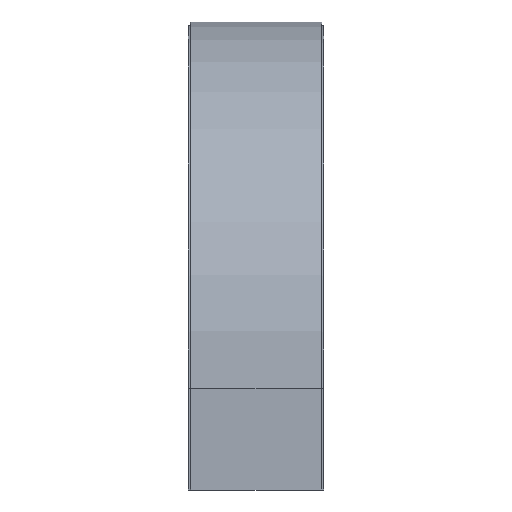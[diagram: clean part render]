
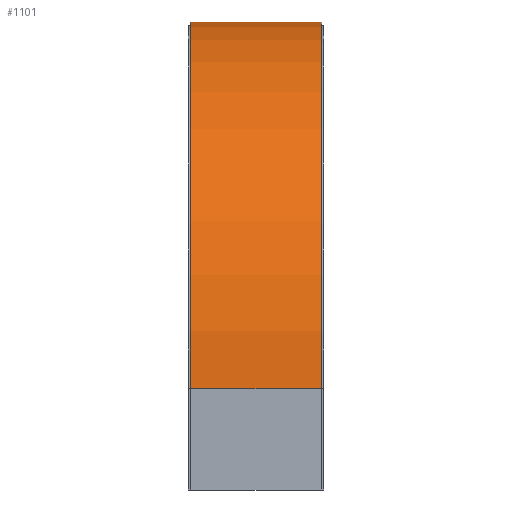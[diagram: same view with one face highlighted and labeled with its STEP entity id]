
A CAD part, front view. The second image highlights one B-rep face of the part: STEP entity #1101.
In plain terms, the highlighted cylindrical face has radius 542 mm (diameter 1084 mm), a partial arc.
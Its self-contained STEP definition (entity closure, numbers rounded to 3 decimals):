
#137 = CARTESIAN_POINT ( 'NONE',  ( -96.65, -42., 150. ) ) ;
#185 = EDGE_CURVE ( 'NONE', #2214, #820, #1968, .T. ) ;
#280 = VERTEX_POINT ( 'NONE', #296 ) ;
#296 = CARTESIAN_POINT ( 'NONE',  ( -96.65, 500., 692. ) ) ;
#316 = DIRECTION ( 'NONE',  ( -1., 0., 0. ) ) ;
#364 = ORIENTED_EDGE ( 'NONE', *, *, #185, .T. ) ;
#414 = CYLINDRICAL_SURFACE ( 'NONE', #1337, 542. ) ;
#481 = VECTOR ( 'NONE', #2566, 1000. ) ;
#535 = CARTESIAN_POINT ( 'NONE',  ( -96.65, 500., 692. ) ) ;
#556 = EDGE_LOOP ( 'NONE', ( #2196, #364, #1739, #2599 ) ) ;
#603 = FACE_OUTER_BOUND ( 'NONE', #556, .T. ) ;
#657 = CARTESIAN_POINT ( 'NONE',  ( 0., 500., 150. ) ) ;
#820 = VERTEX_POINT ( 'NONE', #1492 ) ;
#971 = EDGE_CURVE ( 'NONE', #2214, #1972, #1283, .T. ) ;
#1101 = ADVANCED_FACE ( 'NONE', ( #603 ), #414, .T. ) ;
#1283 = LINE ( 'NONE', #1624, #481 ) ;
#1337 = AXIS2_PLACEMENT_3D ( 'NONE', #657, #2833, #3104 ) ;
#1381 = DIRECTION ( 'NONE',  ( 0., 0., 1. ) ) ;
#1492 = CARTESIAN_POINT ( 'NONE',  ( 96.65, 500., 692. ) ) ;
#1624 = CARTESIAN_POINT ( 'NONE',  ( -96.65, -42., 150. ) ) ;
#1677 = AXIS2_PLACEMENT_3D ( 'NONE', #2360, #1870, #1381 ) ;
#1690 = EDGE_CURVE ( 'NONE', #1972, #280, #2743, .T. ) ;
#1739 = ORIENTED_EDGE ( 'NONE', *, *, #3031, .T. ) ;
#1870 = DIRECTION ( 'NONE',  ( -1., 0., 0. ) ) ;
#1927 = CARTESIAN_POINT ( 'NONE',  ( 96.65, 500., 150. ) ) ;
#1968 = CIRCLE ( 'NONE', #3136, 542. ) ;
#1972 = VERTEX_POINT ( 'NONE', #137 ) ;
#2196 = ORIENTED_EDGE ( 'NONE', *, *, #971, .F. ) ;
#2214 = VERTEX_POINT ( 'NONE', #2901 ) ;
#2360 = CARTESIAN_POINT ( 'NONE',  ( -96.65, 500., 150. ) ) ;
#2421 = DIRECTION ( 'NONE',  ( 0., 0., 1. ) ) ;
#2566 = DIRECTION ( 'NONE',  ( -1., 0., 0. ) ) ;
#2599 = ORIENTED_EDGE ( 'NONE', *, *, #1690, .F. ) ;
#2658 = DIRECTION ( 'NONE',  ( -1., 0., 0. ) ) ;
#2693 = LINE ( 'NONE', #535, #2918 ) ;
#2743 = CIRCLE ( 'NONE', #1677, 542. ) ;
#2833 = DIRECTION ( 'NONE',  ( -1., 0., 0. ) ) ;
#2901 = CARTESIAN_POINT ( 'NONE',  ( 96.65, -42., 150. ) ) ;
#2918 = VECTOR ( 'NONE', #316, 1000. ) ;
#3031 = EDGE_CURVE ( 'NONE', #820, #280, #2693, .T. ) ;
#3104 = DIRECTION ( 'NONE',  ( 0., 0., 1. ) ) ;
#3136 = AXIS2_PLACEMENT_3D ( 'NONE', #1927, #2658, #2421 ) ;
